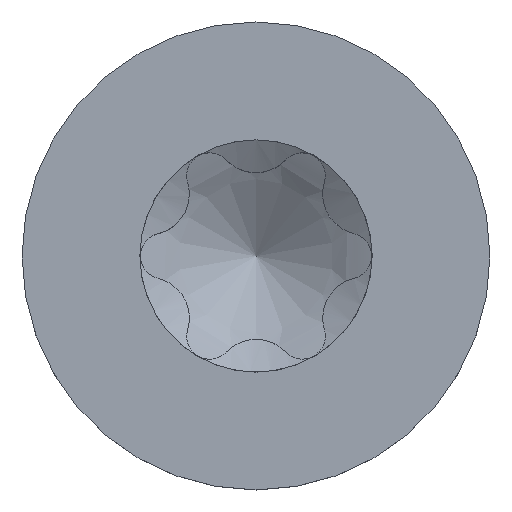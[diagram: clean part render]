
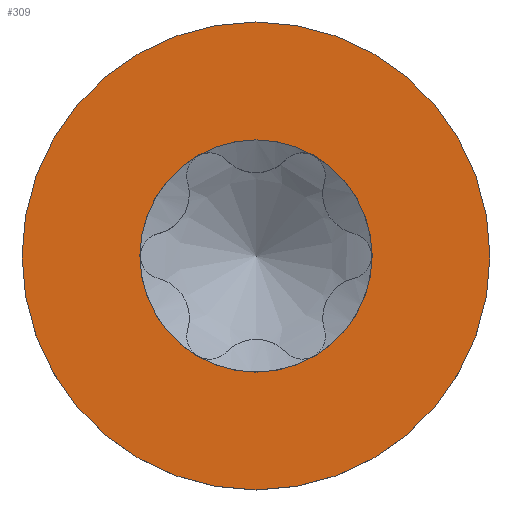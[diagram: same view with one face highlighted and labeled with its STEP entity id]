
A CAD part, top view. The second image highlights one B-rep face of the part: STEP entity #309.
In plain terms, the highlighted planar face has unit normal (0, 0, 1).
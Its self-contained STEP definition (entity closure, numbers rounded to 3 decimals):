
#266=PLANE('',#1523);
#273=FACE_BOUND('',#501,.T.);
#274=FACE_BOUND('',#502,.T.);
#309=ADVANCED_FACE('',(#273,#274),#266,.F.);
#501=EDGE_LOOP('',(#664));
#502=EDGE_LOOP('',(#665));
#604=CIRCLE('',#1521,1.985);
#605=CIRCLE('',#1522,4.);
#664=ORIENTED_EDGE('',*,*,#1218,.F.);
#665=ORIENTED_EDGE('',*,*,#1219,.F.);
#1085=VERTEX_POINT('',#3398);
#1086=VERTEX_POINT('',#3400);
#1218=EDGE_CURVE('',#1085,#1085,#604,.T.);
#1219=EDGE_CURVE('',#1086,#1086,#605,.T.);
#1521=AXIS2_PLACEMENT_3D('',#3397,#1571,#1572);
#1522=AXIS2_PLACEMENT_3D('',#3399,#1573,#1574);
#1523=AXIS2_PLACEMENT_3D('',#3401,#1575,#1576);
#1571=DIRECTION('',(0.,0.,1.));
#1572=DIRECTION('',(-1.,0.,0.));
#1573=DIRECTION('',(0.,0.,-1.));
#1574=DIRECTION('',(-1.,0.,0.));
#1575=DIRECTION('',(0.,0.,-1.));
#1576=DIRECTION('',(-1.,0.,0.));
#3397=CARTESIAN_POINT('',(0.,0.,3.135));
#3398=CARTESIAN_POINT('',(-1.985,0.,3.135));
#3399=CARTESIAN_POINT('',(0.,0.,3.135));
#3400=CARTESIAN_POINT('',(-4.,0.,3.135));
#3401=CARTESIAN_POINT('',(0.,0.,3.135));
